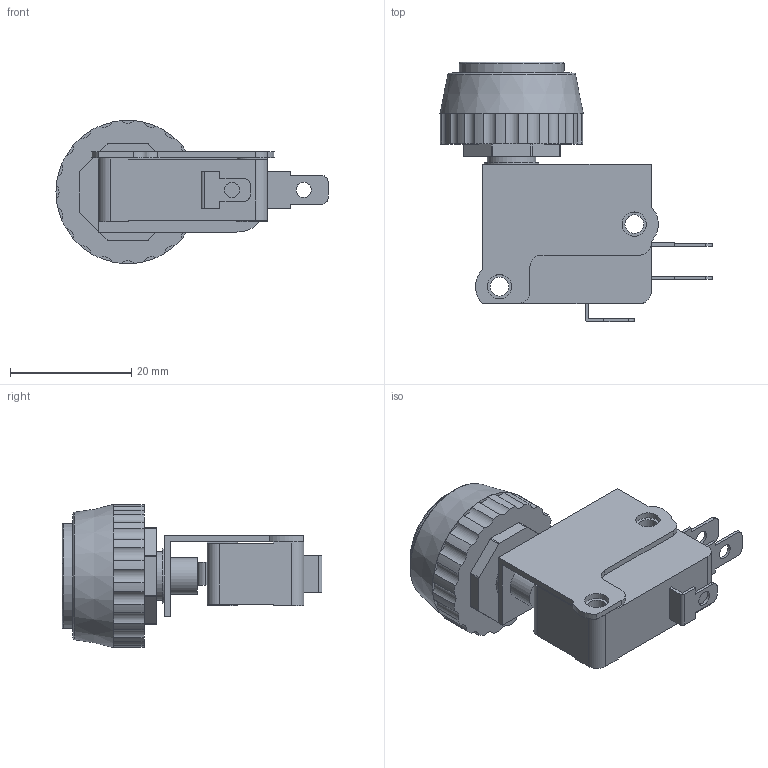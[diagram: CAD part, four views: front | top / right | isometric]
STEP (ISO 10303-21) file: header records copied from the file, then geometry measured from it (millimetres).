
FILE_DESCRIPTION(/* description */ (''),/* implementation_level */ '2;1');
FILE_NAME(/* name */ 'E:\Inventor 2016\제품 외형도\(완료) 리미트 스위치\소형 마이크로 스위치 (V형)\YS P12-15C.stp',/* time_stamp */ '2019-04-09T10:04:09+09:00',/* author */ ('Kim'),/* organization */ (''),/* preprocessor_version */ 'ST-DEVELOPER v16.1',/* originating_system */ 'Autodesk Inventor 2016',/* authorisation */ '');
FILE_SCHEMA (('AUTOMOTIVE_DESIGN { 1 0 10303 214 3 1 1 }'));
Length unit declared in the file: millimetre
Products named in the file (1): YS P12-15C
Bounding box: 44.8 x 42.8 x 23.6 mm (x, y, z)
Volume: 10850.1 mm3; surface area: 7406.5 mm2
Topology: 5 solids, 5 shells, 176 faces, 463 edges, 308 vertices
Faces by surface type: plane 91, cylinder 82, torus 2, cone 1
Full cylindrical faces by diameter (mm): 2.5 x3, 3.1 x2, 4 x2, 6 x1, 8 x1, 9 x1, 17.3 x1, 18.3 x1
Entity records: 5600 total; most frequent: DIRECTION 970, CARTESIAN_POINT 933, ORIENTED_EDGE 896, EDGE_CURVE 448, AXIS2_PLACEMENT_3D 345, VERTEX_POINT 308, LINE 280, VECTOR 280
